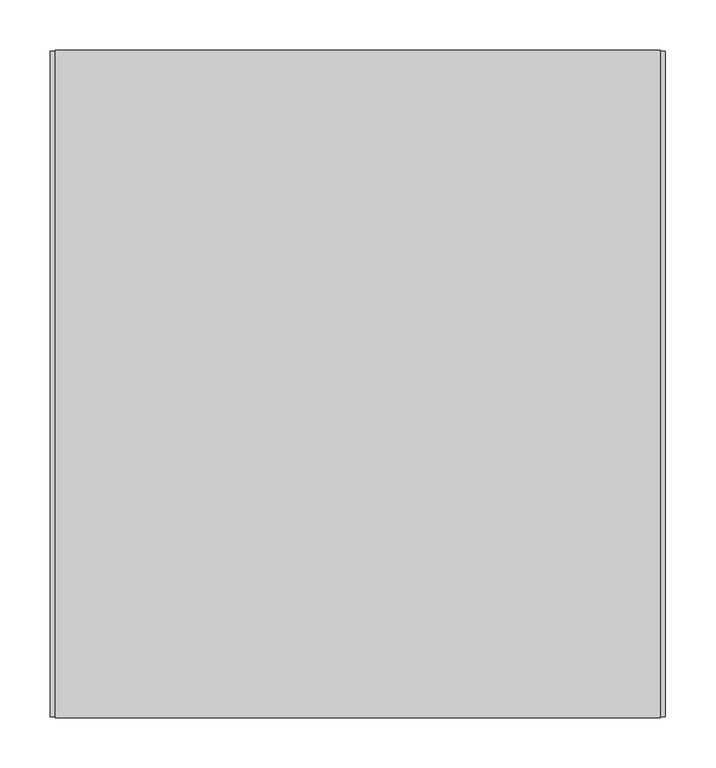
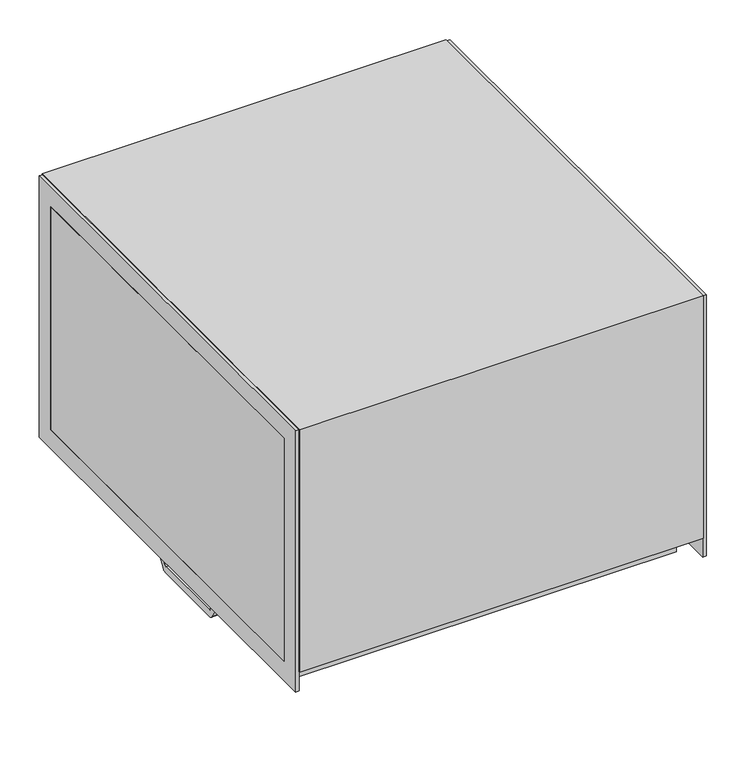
"""IFC4 building model written with IfcOpenShell, lengths in millimetres: unitary equipment geometry, VE-Wentylator-ParaForma-Harmann-DRBI-Nawiewny : 060/35/2800S."""

from ifc_helpers import new_model, si_unit, point, frame, frame_2d, origin, place, context, project, spatial, polyline, circle_curve, trimmed, segment, composite_curve, outline, extrude, faceted_brep, source, transform, mapped, element, save


def unitary_equipment_c6848e68(model_context):
    return source(origin(), model_context, "Body", "SolidModel", [
        faceted_brep([(-289.9, -295.5, -210.4), (-289.9, -295.5, -174.9), (-289.9, 295.5, -175.0), (-289.9, 295.5, -210.4), (280.6, -295.5, -210.4), (280.6, 295.5, -210.4), (280.6, 295.5, -174.9), (280.6, -295.5, -175.0), (-300.0, -331.0, -175.0), (-300.0, -331.0, 206.0), (-300.0, 331.0, 206.0), (-300.0, 331.0, -175.0), (-300.0, 300.0, -175.0), (-300.0, 300.0, 175.0), (-300.0, -300.0, 175.0), (-300.0, -300.0, -175.0), (300.0, 331.0, -175.0), (300.0, 331.0, 206.0), (300.0, -331.0, 206.0), (300.0, -331.0, -175.0), (300.0, -300.0, -175.0), (300.0, -300.0, 175.0), (300.0, 300.0, 175.0), (300.0, 300.0, -175.0), (-305.0, -300.0, -175.0), (-305.0, 300.0, -175.0), (305.0, 300.0, -175.0), (305.0, -300.0, -175.0), (-305.0, -300.0, 175.0), (-305.0, 300.0, 175.0), (305.0, 300.0, 175.0), (305.0, -300.0, 175.0)], [[[0, 1, 2, 3]], [[4, 5, 6, 7]], [[1, 0, 4, 7]], [[3, 2, 6, 5]], [[0, 3, 5, 4]], [[8, 9, 10, 11, 12, 13, 14, 15]], [[16, 17, 18, 19, 20, 21, 22, 23]], [[9, 8, 19, 18]], [[10, 9, 18, 17]], [[11, 10, 17, 16]], [[19, 8, 15, 24, 25, 12, 11, 16, 23, 26, 27, 20], [2, 1, 7, 6]], [[24, 28, 29, 25]], [[28, 24, 15, 14]], [[29, 28, 14, 13]], [[25, 29, 13, 12]], [[27, 26, 30, 31]], [[27, 31, 21, 20]], [[31, 30, 22, 21]], [[30, 26, 23, 22]]]),
        extrude(outline(polyline([(-330.0, -204.9), (-330.0, 205.1), (330.0, 205.1), (330.0, -204.9), (-330.0, -204.9)]), holes=[polyline([(-300.0, -175.0), (300.0, -175.0), (300.0, 175.0), (-300.0, 175.0), (-300.0, -175.0)])]), frame((300.0, 0.0, 0.0), z_axis=(1.0, 0.0, 0.0), x_axis=(0.0, 1.0, 0.0)), (0.0, 0.0, 1.0), 5.0),
        extrude(outline(polyline([(-330.0, -204.9), (-330.0, 205.1), (330.0, 205.1), (330.0, -204.9), (-330.0, -204.9)]), holes=[polyline([(-300.0, -175.0), (300.0, -175.0), (300.0, 175.0), (-300.0, 175.0), (-300.0, -175.0)])]), frame((-305.0, 0.0, 0.0), z_axis=(1.0, 0.0, 0.0), x_axis=(0.0, 1.0, 0.0)), (0.0, 0.0, 1.0), 5.0),
        extrude(outline(composite_curve([segment(polyline([(-85.0, -223.5), (-85.0, -210.5), (-60.0, -210.5), (-60.0, -247.5)]), True, "CONTINUOUS"), segment(trimmed(circle_curve(frame_2d((-55.0, -247.5)), 5.0), [point((-60.0, -247.5))], [point((-55.0, -252.5))], True, "CARTESIAN"), True, "CONTINUOUS"), segment(polyline([(-55.0, -252.5), (55.0, -252.5)]), True, "CONTINUOUS"), segment(trimmed(circle_curve(frame_2d((55.0, -247.5)), 5.0), [point((55.0, -252.5))], [point((60.0, -247.5))], True, "CARTESIAN"), True, "CONTINUOUS"), segment(polyline([(60.0, -247.5), (60.0, -210.5), (85.0, -210.5), (85.0, -223.5), (61.4754291, -260.1983306)]), True, "CONTINUOUS"), segment(trimmed(circle_curve(frame_2d((57.2660334, -257.5)), 5.0), [point((61.4754291, -260.1983306))], [point((57.2660334, -262.5))], False, "CARTESIAN"), True, "CONTINUOUS"), segment(polyline([(57.2660334, -262.5), (-57.2660334, -262.5)]), True, "CONTINUOUS"), segment(trimmed(circle_curve(frame_2d((-57.2660334, -257.5)), 5.0), [point((-57.2660334, -262.5))], [point((-61.4754291, -260.1983306))], False, "CARTESIAN"), True, "CONTINUOUS"), segment(polyline([(-61.4754291, -260.1983306), (-85.0, -223.5)]), True, "CONTINUOUS")], self_intersect=False)), frame((-275.2, 0.0, 0.0), z_axis=(1.0, 0.0, 0.0), x_axis=(0.0, 1.0, 0.0)), (0.0, 0.0, 1.0), 28.0),
        extrude(outline(composite_curve([segment(polyline([(270.4, -27.5), (185.4, -27.5)]), True, "CONTINUOUS"), segment(trimmed(circle_curve(frame_2d((185.4, -22.5)), 5.0), [point((185.4, -27.5))], [point((180.4, -22.5))], False, "CARTESIAN"), True, "CONTINUOUS"), segment(polyline([(180.4, -22.5), (180.4, 77.5)]), True, "CONTINUOUS"), segment(trimmed(circle_curve(frame_2d((185.4, 77.5)), 5.0), [point((180.4, 77.5))], [point((185.4, 82.5))], False, "CARTESIAN"), True, "CONTINUOUS"), segment(polyline([(185.4, 82.5), (270.4, 82.5)]), True, "CONTINUOUS"), segment(trimmed(circle_curve(frame_2d((270.4, 77.5)), 5.0), [point((270.4, 82.5))], [point((275.4, 77.5))], False, "CARTESIAN"), True, "CONTINUOUS"), segment(polyline([(275.4, 77.5), (275.4, -22.5)]), True, "CONTINUOUS"), segment(trimmed(circle_curve(frame_2d((270.4, -22.5)), 5.0), [point((275.4, -22.5))], [point((270.4, -27.5))], False, "CARTESIAN"), True, "CONTINUOUS")], self_intersect=False)), frame((0.0, 0.0, -259.9), z_axis=(0.0, 0.0, 1.0), x_axis=(1.0, 0.0, 0.0)), (0.0, 0.0, 1.0), 49.5),
    ])


if __name__ == "__main__":
    model = new_model("IFC4")
    model_context = context("Model", 3, world=origin())
    ifc_project = project(units=[si_unit("LENGTHUNIT", "METRE", prefix="MILLI")], contexts=[model_context])
    site = spatial("IfcSite", under=ifc_project)
    building = spatial("IfcBuilding", under=site)
    placement = place(None, origin())
    unitary_equipment_shape = unitary_equipment_c6848e68(model_context)
    element("IfcUnitaryEquipment", 1, ObjectType="VE-Wentylator-ParaForma-Harmann-DRBI-Nawiewny : 060/35/2800S", at=placement, inside=building, context=model_context, shape_type="MappedRepresentation", body=[
        mapped(unitary_equipment_shape, transform((0.0, 0.0, 0.0), x_axis=(1.0, 0.0, 0.0), y_axis=(0.0, 1.0, 0.0), z_axis=(0.0, 0.0, 1.0))),
    ])
    save(model, "model.ifc")
